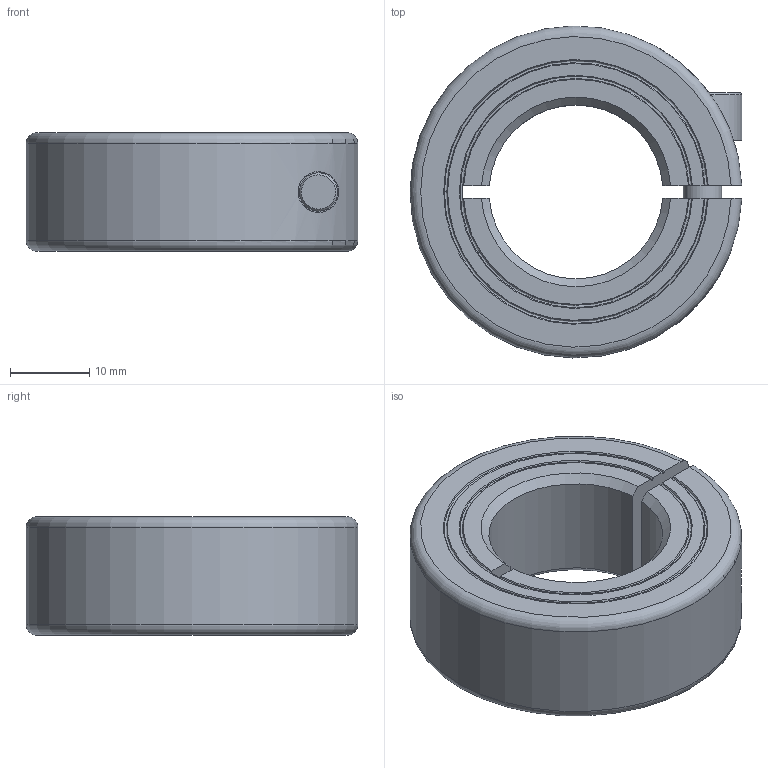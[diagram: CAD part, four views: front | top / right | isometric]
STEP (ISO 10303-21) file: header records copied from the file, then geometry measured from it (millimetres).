
FILE_DESCRIPTION((''),'2;1');
FILE_NAME('MCL-22-F','2016-09-08T',('SYSTEM'),(''),'PRO/ENGINEER BY PARAMETRIC TECHNOLOGY CORPORATION, 2015110','PRO/ENGINEER BY PARAMETRIC TECHNOLOGY CORPORATION, 2015110','');
FILE_SCHEMA(('AUTOMOTIVE_DESIGN { 1 0 10303 214 1 1 1 1 }'));
Length unit declared in the file: inch
Products named in the file (1): MCL-22-F
Bounding box: 42 x 41.99 x 15 mm (x, y, z)
Volume: 14250.2 mm3; surface area: 6054.7 mm2
Topology: 1 solids, 1 shells, 55 faces, 146 edges, 97 vertices
Faces by surface type: plane 22, cylinder 14, cone 14, torus 5
Entity records: 2313 total; most frequent: CARTESIAN_POINT 504, ORIENTED_EDGE 292, DIRECTION 275, EDGE_CURVE 146, AXIS2_PLACEMENT_3D 109, VERTEX_POINT 97, EDGE_LOOP 61, VECTOR 57
